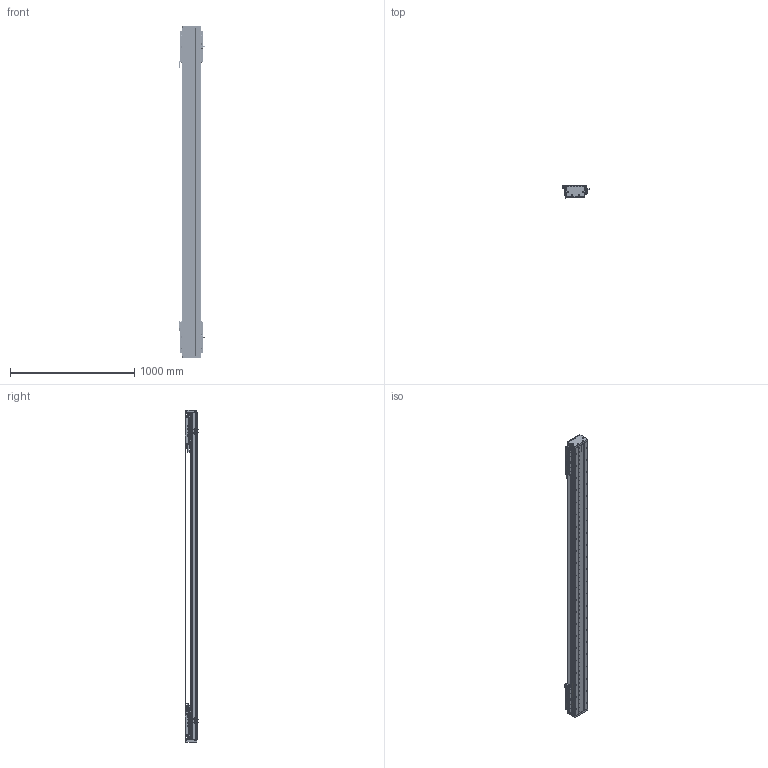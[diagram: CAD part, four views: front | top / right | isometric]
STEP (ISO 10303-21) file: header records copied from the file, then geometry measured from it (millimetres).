
FILE_DESCRIPTION (( 'STEP AP203' ), '1' );
FILE_NAME ('DA-C145-2-C3-T2060-C010-0.2 眻盄萇儂.STEP', '2025-08-13T10:25:33', ( '' ), ( '' ), 'SwSTEP 2.0', 'SolidWorks 2019', '' );
FILE_SCHEMA (( 'CONFIG_CONTROL_DESIGN' ));
Length unit declared in the file: millimetre
Products named in the file (38): 66245-CU145-HT-W-00 賑雄怢啣(3D芞祧)(00); 复件 DA145-C3-DK-00 挡块^CU145-W 滚珠滑台; 复件 DA95-MFP-01 密封片^CU145-W 滚珠滑台; 葩璃 DA145-C3-DP-A-00 菜えA^CU145-W 幗紩賑怢; 复件 内六角平端紧定螺钉 GB.T77-2000 M5×10^CU145-W 滚珠滑台; 葩璃 CU145 詩湍郪璃^DA-C145-2-C3-T-C010-0.2; 葩璃 PM-Y65^DA-C145-2-C3-T-C010-0.2; 葩璃 DA145-C3-DP-B-00 菜えB^CU145-W 幗紩賑怢; 葩璃 DA95-HXJ-00 遣喳砎蝶^DA-C145-2-C3-T-C010-0.2; 葩璃 XD-U-02L 棠掑喜^DA-C145-2-C3-T-C010-0.2; DKW-KGZ-ZJ-00 中间光电开关支架; 复件 DA145-C3-YB-B-00 压板B^CU145-W 滚珠滑台; CU145-W-00 珨极趙賑雄怢啣-1; IU-CU145-L-00 菁釱(L2640); DKW-GYP-ZJ-00 笢潔嫖萇覜茼え; 复件 DA95-DB-00  挡板^CU145-W 滚珠滑台; 复件 DA95-HK-GT-00 滑块钢轨^CU145-W-00 一体化滑动台板; CU145-W 幗紩賑怢-1; CU145-W 幗紩賑怢; IU-CU145-L 菁釱絳寢; 葩璃 CKMA01-W060-TRL^DA-C145-2-C3-T-C010-0.2; 复件 纯铜油杯 6x6mm^CU145-W 滚珠滑台; DA-C145-2-C3-T2060-C010-0.2 眻盄萇儂; 复件 DA146 钢带拉块^复件 CU145 钢带组件_DA-C145-2-C3-T-C010-0.2; 葩璃 CKM03-W060-C1C2-TP-0.2^DA-C145-2-C3-T-C010-0.2; CU145-W-00 珨极趙賑雄怢啣; 复件 半圆头内六角螺钉 M3×6^CU145-W 滚珠滑台; 复件 DA146 钢带垫块^复件 CU145 钢带组件_DA-C145-2-C3-T-C010-0.2; 复件 DA145 钢带^复件 CU145 钢带组件_DA-C145-2-C3-T-C010-0.2; 复件 DA145-DG 钢带端盖^复件 CU145 钢带组件_DA-C145-2-C3-T-C010-0.2; TAY01-M8; 复件 DA145-C3-YB-A-00 压板A^CU145-W 滚珠滑台; 葩璃 鞠褒情蹟譫 M3^DA-C145-2-C3-T-C010-0.2; 复件 DA145-GYP-00 光电感应片^DA-C145-2-C3-T-C010-0.2; 葩璃 PM-T45^DA-C145-2-C3-T-C010-0.2; DKW168-HXJ-ZJ-00 笢潔滅袉砎蝶; 葩璃 DA95-GT-T-00^IU-CU145-L 菁釱絳寢; 葩璃 DMA-010-0.2 黍杅芛^DA-C145-2-C3-T-C010-0.2
Assembly tree (180 placements, depth 4):
  DA-C145-2-C3-T2060-C010-0.2 眻盄萇儂
    IU-CU145-L 菁釱絳寢
      IU-CU145-L-00 菁釱(L2640)
      葩璃 DA95-GT-T-00^IU-CU145-L 菁釱絳寢  x4
    葩璃 CU145 詩湍郪璃^DA-C145-2-C3-T-C010-0.2
      复件 DA145-DG 钢带端盖^复件 CU145 钢带组件_DA-C145-2-C3-T-C010-0.2  x2
      复件 DA146 钢带拉块^复件 CU145 钢带组件_DA-C145-2-C3-T-C010-0.2  x2
      复件 DA146 钢带垫块^复件 CU145 钢带组件_DA-C145-2-C3-T-C010-0.2  x2
      复件 DA145 钢带^复件 CU145 钢带组件_DA-C145-2-C3-T-C010-0.2
    CU145-W 幗紩賑怢
      CU145-W-00 珨极趙賑雄怢啣
        66245-CU145-HT-W-00 賑雄怢啣(3D芞祧)(00)
        复件 DA95-HK-GT-00 滑块钢轨^CU145-W-00 一体化滑动台板  x8
      复件 DA95-MFP-01 密封片^CU145-W 滚珠滑台  x8
      复件 DA95-DB-00  挡板^CU145-W 滚珠滑台  x8
      复件 内六角平端紧定螺钉 GB.T77-2000 M5×10^CU145-W 滚珠滑台  x4
      复件 纯铜油杯 6x6mm^CU145-W 滚珠滑台  x4
      复件 半圆头内六角螺钉 M3×6^CU145-W 滚珠滑台  x16
      复件 DA145-C3-DK-00 挡块^CU145-W 滚珠滑台  x4
      葩璃 DA145-C3-DP-B-00 菜えB^CU145-W 幗紩賑怢  x2
      复件 DA145-C3-YB-B-00 压板B^CU145-W 滚珠滑台  x2
      葩璃 DA145-C3-DP-A-00 菜えA^CU145-W 幗紩賑怢  x3
      复件 DA145-C3-YB-A-00 压板A^CU145-W 滚珠滑台  x3
      TAY01-M8  x4
    CU145-W 幗紩賑怢-1
      CU145-W-00 珨极趙賑雄怢啣-1
        66245-CU145-HT-W-00 賑雄怢啣(3D芞祧)(00)
        复件 DA95-HK-GT-00 滑块钢轨^CU145-W-00 一体化滑动台板  x8
      复件 DA95-MFP-01 密封片^CU145-W 滚珠滑台  x8
      复件 DA95-DB-00  挡板^CU145-W 滚珠滑台  x8
      复件 内六角平端紧定螺钉 GB.T77-2000 M5×10^CU145-W 滚珠滑台  x4
      复件 纯铜油杯 6x6mm^CU145-W 滚珠滑台  x4
      复件 半圆头内六角螺钉 M3×6^CU145-W 滚珠滑台  x16
      复件 DA145-C3-DK-00 挡块^CU145-W 滚珠滑台  x4
      葩璃 DA145-C3-DP-B-00 菜えB^CU145-W 幗紩賑怢  x2
      复件 DA145-C3-YB-B-00 压板B^CU145-W 滚珠滑台  x2
      葩璃 DA145-C3-DP-A-00 菜えA^CU145-W 幗紩賑怢  x3
      复件 DA145-C3-YB-A-00 压板A^CU145-W 滚珠滑台  x3
      TAY01-M8  x4
    葩璃 CKMA01-W060-TRL^DA-C145-2-C3-T-C010-0.2
    葩璃 PM-T45^DA-C145-2-C3-T-C010-0.2  x4
    葩璃 XD-U-02L 棠掑喜^DA-C145-2-C3-T-C010-0.2
    葩璃 DA95-HXJ-00 遣喳砎蝶^DA-C145-2-C3-T-C010-0.2  x4
    葩璃 CKM03-W060-C1C2-TP-0.2^DA-C145-2-C3-T-C010-0.2  x2
    葩璃 DMA-010-0.2 黍杅芛^DA-C145-2-C3-T-C010-0.2  x2
    复件 DA145-GYP-00 光电感应片^DA-C145-2-C3-T-C010-0.2  x2
    DKW-GYP-ZJ-00 笢潔嫖萇覜茼え
    DKW-KGZ-ZJ-00 中间光电开关支架
    葩璃 PM-Y65^DA-C145-2-C3-T-C010-0.2
    葩璃 鞠褒情蹟譫 M3^DA-C145-2-C3-T-C010-0.2  x8
    DKW168-HXJ-ZJ-00 笢潔滅袉砎蝶
Bounding box: 213.7 x 108.45 x 2676 mm (x, y, z)
Volume: 14487762.8 mm3; surface area: 4589452 mm2
Topology: 175 solids, 239 shells, 7589 faces, 20571 edges, 12733 vertices
Faces by surface type: cylinder 3298, plane 2951, cone 1184, torus 140, sphere 8, bspline 8
Entity records: 141710 total; most frequent: CARTESIAN_POINT 40814, ORIENTED_EDGE 19828, DIRECTION 18931, EDGE_CURVE 9914, AXIS2_PLACEMENT_3D 6969, VERTEX_POINT 6432, LINE 4993, VECTOR 4993
